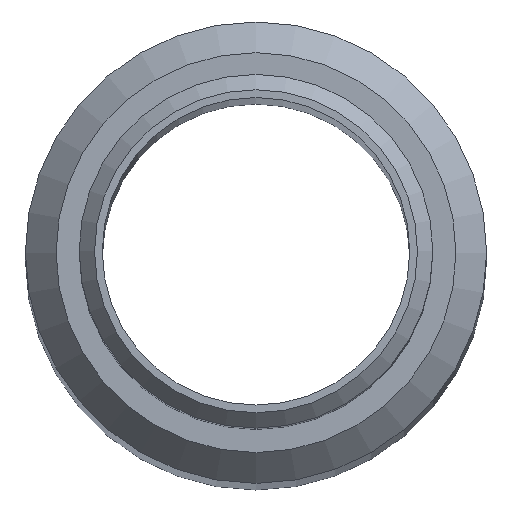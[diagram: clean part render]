
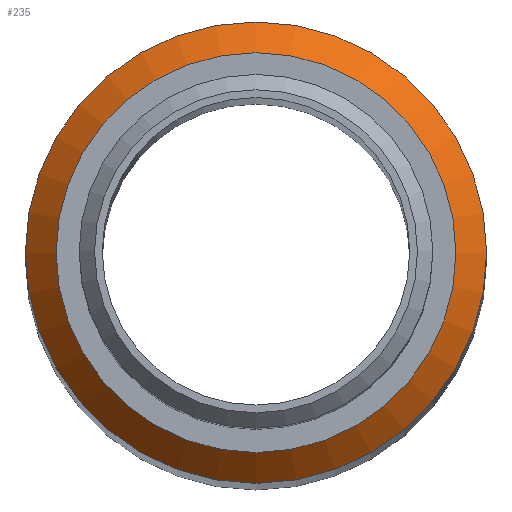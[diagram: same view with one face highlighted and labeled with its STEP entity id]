
A CAD part, top view. The second image highlights one B-rep face of the part: STEP entity #235.
In plain terms, the highlighted conical face has half-angle 45 degrees and reference radius 15 mm.
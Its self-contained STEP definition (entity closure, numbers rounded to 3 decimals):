
#195 = VERTEX_POINT('',#196);
#196 = CARTESIAN_POINT('',(15.,0.,248.));
#202 = EDGE_CURVE('',#195,#195,#203,.T.);
#203 = CIRCLE('',#204,15.);
#204 = AXIS2_PLACEMENT_3D('',#205,#206,#207);
#205 = CARTESIAN_POINT('',(0.,0.,248.));
#206 = DIRECTION('',(0.,0.,1.));
#207 = DIRECTION('',(1.,0.,0.));
#235 = ADVANCED_FACE('',(#236),#255,.T.);
#236 = FACE_BOUND('',#237,.F.);
#237 = EDGE_LOOP('',(#238,#246,#253,#254));
#238 = ORIENTED_EDGE('',*,*,#239,.F.);
#239 = EDGE_CURVE('',#240,#195,#242,.T.);
#240 = VERTEX_POINT('',#241);
#241 = CARTESIAN_POINT('',(13.,0.,250.));
#242 = LINE('',#243,#244);
#243 = CARTESIAN_POINT('',(15.,0.,248.));
#244 = VECTOR('',#245,1.);
#245 = DIRECTION('',(0.707,0.,-0.707));
#246 = ORIENTED_EDGE('',*,*,#247,.T.);
#247 = EDGE_CURVE('',#240,#240,#248,.T.);
#248 = CIRCLE('',#249,13.);
#249 = AXIS2_PLACEMENT_3D('',#250,#251,#252);
#250 = CARTESIAN_POINT('',(0.,0.,250.));
#251 = DIRECTION('',(0.,0.,1.));
#252 = DIRECTION('',(1.,0.,0.));
#253 = ORIENTED_EDGE('',*,*,#239,.T.);
#254 = ORIENTED_EDGE('',*,*,#202,.F.);
#255 = CONICAL_SURFACE('',#256,15.,0.785);
#256 = AXIS2_PLACEMENT_3D('',#257,#258,#259);
#257 = CARTESIAN_POINT('',(0.,0.,248.));
#258 = DIRECTION('',(-0.,-0.,-1.));
#259 = DIRECTION('',(1.,0.,0.));
